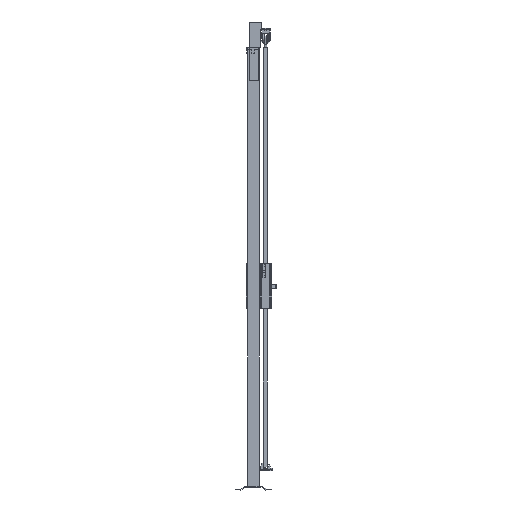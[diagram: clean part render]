
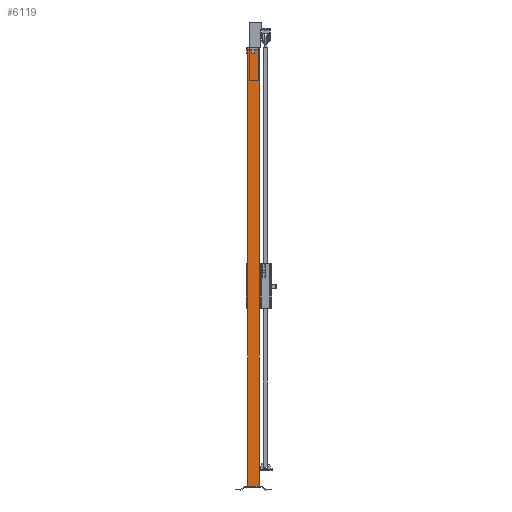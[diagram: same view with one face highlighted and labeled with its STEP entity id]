
A CAD part, left-side view. The second image highlights one B-rep face of the part: STEP entity #6119.
In plain terms, the highlighted planar face has unit normal (-1, 0, 0).
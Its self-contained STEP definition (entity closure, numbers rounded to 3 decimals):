
#556=FACE_OUTER_BOUND('',#1001,.T.);
#1001=EDGE_LOOP('',(#3879,#3880,#3881,#3882));
#1513=VERTEX_POINT('',#13293);
#1514=VERTEX_POINT('',#13295);
#1517=VERTEX_POINT('',#13302);
#1518=VERTEX_POINT('',#13304);
#2427=EDGE_CURVE('',#1513,#1514,#7260,.T.);
#2431=EDGE_CURVE('',#1517,#1518,#7264,.T.);
#2433=EDGE_CURVE('',#1514,#1517,#7266,.T.);
#2435=EDGE_CURVE('',#1513,#1518,#7268,.T.);
#3879=ORIENTED_EDGE('',*,*,#2435,.T.);
#3880=ORIENTED_EDGE('',*,*,#2431,.F.);
#3881=ORIENTED_EDGE('',*,*,#2433,.F.);
#3882=ORIENTED_EDGE('',*,*,#2427,.F.);
#5715=PLANE('',#9377);
#6119=ADVANCED_FACE('',(#556),#5715,.F.);
#7260=LINE('',#13296,#8442);
#7264=LINE('',#13305,#8446);
#7266=LINE('',#13308,#8448);
#7268=LINE('',#13311,#8450);
#8442=VECTOR('',#10506,1.);
#8446=VECTOR('',#10512,1.);
#8448=VECTOR('',#10516,1.);
#8450=VECTOR('',#10520,1.);
#9377=AXIS2_PLACEMENT_3D('',#13310,#10518,#10519);
#10506=DIRECTION('',(0.,-1.,0.));
#10512=DIRECTION('',(0.,1.,0.));
#10516=DIRECTION('',(0.,0.,-1.));
#10518=DIRECTION('center_axis',(1.,0.,0.));
#10519=DIRECTION('ref_axis',(0.,0.,-1.));
#10520=DIRECTION('',(0.,0.,-1.));
#13293=CARTESIAN_POINT('',(-30.,30.,2320.));
#13295=CARTESIAN_POINT('',(-30.,-30.,2320.));
#13296=CARTESIAN_POINT('',(-30.,0.,2320.));
#13302=CARTESIAN_POINT('',(-30.,-30.,20.));
#13304=CARTESIAN_POINT('',(-30.,30.,20.));
#13305=CARTESIAN_POINT('',(-30.,0.,20.));
#13308=CARTESIAN_POINT('',(-30.,-30.,1170.));
#13310=CARTESIAN_POINT('Origin',(-30.,0.,
1170.));
#13311=CARTESIAN_POINT('',(-30.,30.,1170.));
